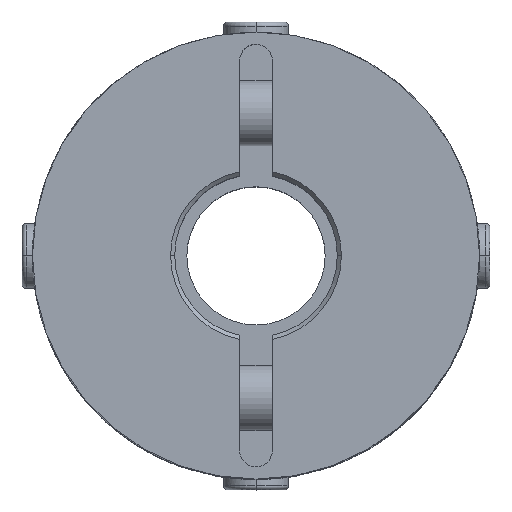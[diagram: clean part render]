
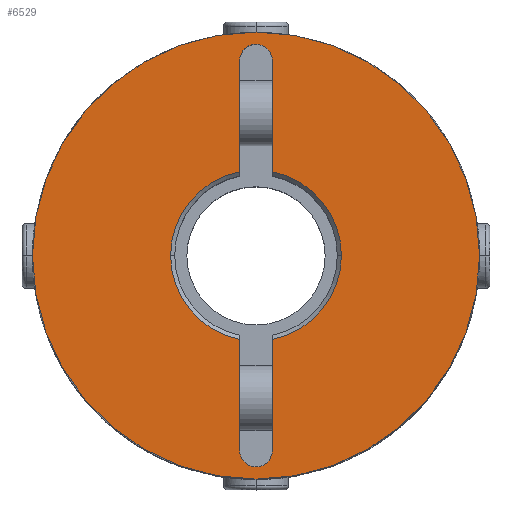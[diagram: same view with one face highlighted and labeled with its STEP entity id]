
A CAD part, top view. The second image highlights one B-rep face of the part: STEP entity #6529.
In plain terms, the highlighted planar face has unit normal (0, 0, 1).
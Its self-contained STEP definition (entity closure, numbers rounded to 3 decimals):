
#2557=CARTESIAN_POINT('',(10.5,0.,29.0));
#2558=VERTEX_POINT('',#2557);
#2574=CARTESIAN_POINT('',(2.,-10.308,29.0));
#2575=VERTEX_POINT('',#2574);
#2589=CARTESIAN_POINT('',(0.,0.0,29.0));
#2590=DIRECTION('',(0.0,0.0,1.0));
#2591=DIRECTION('',(-1.0,0.0,0.0));
#2592=AXIS2_PLACEMENT_3D('',#2589,#2590,#2591);
#2593=CIRCLE('',#2592,10.5);
#2594=EDGE_CURVE('',#2575,#2558,#2593,.T.);
#2756=CARTESIAN_POINT('',(-10.5,0.,29.0));
#2757=VERTEX_POINT('',#2756);
#2764=CARTESIAN_POINT('',(-2.,-10.308,29.0));
#2765=VERTEX_POINT('',#2764);
#2766=CARTESIAN_POINT('',(0.,0.0,29.0));
#2767=DIRECTION('',(0.0,0.0,1.0));
#2768=DIRECTION('',(-1.0,0.0,0.0));
#2769=AXIS2_PLACEMENT_3D('',#2766,#2767,#2768);
#2770=CIRCLE('',#2769,10.5);
#2771=EDGE_CURVE('',#2757,#2765,#2770,.T.);
#2797=CARTESIAN_POINT('',(-1.414,25.414,29.0));
#2798=VERTEX_POINT('',#2797);
#2814=CARTESIAN_POINT('',(2.,24.,29.0));
#2815=VERTEX_POINT('',#2814);
#2822=CARTESIAN_POINT('',(0.,24.,29.0));
#2823=DIRECTION('',(0.0,0.0,1.));
#2824=DIRECTION('',(0.707,0.707,0.0));
#2825=AXIS2_PLACEMENT_3D('',#2822,#2823,#2824);
#2826=CIRCLE('',#2825,2.);
#2827=EDGE_CURVE('',#2815,#2798,#2826,.T.);
#2839=CARTESIAN_POINT('',(1.414,-25.414,29.0));
#2840=VERTEX_POINT('',#2839);
#2856=CARTESIAN_POINT('',(-2.,-24.,29.0));
#2857=VERTEX_POINT('',#2856);
#2864=CARTESIAN_POINT('',(0.,-24.,29.0));
#2865=DIRECTION('',(0.0,0.0,1.0));
#2866=DIRECTION('',(-0.707,-0.707,0.0));
#2867=AXIS2_PLACEMENT_3D('',#2864,#2865,#2866);
#2868=CIRCLE('',#2867,2.0);
#2869=EDGE_CURVE('',#2857,#2840,#2868,.T.);
#3424=CARTESIAN_POINT('',(-27.5,0.,29.0));
#3425=VERTEX_POINT('',#3424);
#3432=CARTESIAN_POINT('',(27.5,0.0,29.0));
#3433=VERTEX_POINT('',#3432);
#3434=CARTESIAN_POINT('',(0.,0.0,29.0));
#3435=DIRECTION('',(0.0,0.0,-1.0));
#3436=DIRECTION('',(1.0,0.0,0.0));
#3437=AXIS2_PLACEMENT_3D('',#3434,#3435,#3436);
#3438=CIRCLE('',#3437,27.5);
#3439=EDGE_CURVE('',#3425,#3433,#3438,.T.);
#5730=CARTESIAN_POINT('',(0.,0.0,29.0));
#5731=DIRECTION('',(0.0,0.0,-1.0));
#5732=DIRECTION('',(1.0,0.0,0.0));
#5733=AXIS2_PLACEMENT_3D('',#5730,#5731,#5732);
#5734=CIRCLE('',#5733,27.5);
#5735=EDGE_CURVE('',#3433,#3425,#5734,.T.);
#6288=CARTESIAN_POINT('',(2.,-24.,29.0));
#6289=VERTEX_POINT('',#6288);
#6290=CARTESIAN_POINT('',(0.,-24.,29.0));
#6291=DIRECTION('',(0.0,0.0,1.0));
#6292=DIRECTION('',(-0.707,-0.707,0.0));
#6293=AXIS2_PLACEMENT_3D('',#6290,#6291,#6292);
#6294=CIRCLE('',#6293,2.0);
#6295=EDGE_CURVE('',#2840,#6289,#6294,.T.);
#6313=CARTESIAN_POINT('',(2.,-10.308,29.0));
#6314=DIRECTION('',(0.0,-1.0,0.0));
#6315=VECTOR('',#6314,13.692);
#6316=LINE('',#6313,#6315);
#6317=EDGE_CURVE('',#2575,#6289,#6316,.T.);
#6336=CARTESIAN_POINT('',(-2.,24.,29.0));
#6337=VERTEX_POINT('',#6336);
#6338=CARTESIAN_POINT('',(0.,24.,29.0));
#6339=DIRECTION('',(0.0,0.0,1.));
#6340=DIRECTION('',(0.707,0.707,0.0));
#6341=AXIS2_PLACEMENT_3D('',#6338,#6339,#6340);
#6342=CIRCLE('',#6341,2.);
#6343=EDGE_CURVE('',#2798,#6337,#6342,.T.);
#6361=CARTESIAN_POINT('',(-2.,10.308,29.0));
#6362=VERTEX_POINT('',#6361);
#6363=CARTESIAN_POINT('',(-2.,10.308,29.0));
#6364=DIRECTION('',(0.0,1.0,0.0));
#6365=VECTOR('',#6364,13.692);
#6366=LINE('',#6363,#6365);
#6367=EDGE_CURVE('',#6362,#6337,#6366,.T.);
#6443=CARTESIAN_POINT('',(2.,10.308,29.0));
#6444=VERTEX_POINT('',#6443);
#6458=CARTESIAN_POINT('',(2.,24.,29.0));
#6459=DIRECTION('',(0.0,-1.0,0.0));
#6460=VECTOR('',#6459,13.692);
#6461=LINE('',#6458,#6460);
#6462=EDGE_CURVE('',#2815,#6444,#6461,.T.);
#6481=CARTESIAN_POINT('',(-2.,-24.,29.0));
#6482=DIRECTION('',(0.0,1.0,0.0));
#6483=VECTOR('',#6482,13.692);
#6484=LINE('',#6481,#6483);
#6485=EDGE_CURVE('',#2857,#2765,#6484,.T.);
#6494=CARTESIAN_POINT('',(2.5,0.,29.0));
#6495=DIRECTION('',(0.0,0.0,1.0));
#6496=DIRECTION('',(1.0,0.0,0.0));
#6497=AXIS2_PLACEMENT_3D('',#6494,#6495,#6496);
#6498=PLANE('',#6497);
#6499=ORIENTED_EDGE('',*,*,#5735,.F.);
#6500=ORIENTED_EDGE('',*,*,#3439,.F.);
#6501=EDGE_LOOP('',(#6499,#6500));
#6502=FACE_OUTER_BOUND('',#6501,.T.);
#6503=ORIENTED_EDGE('',*,*,#6317,.T.);
#6504=ORIENTED_EDGE('',*,*,#6295,.F.);
#6505=ORIENTED_EDGE('',*,*,#2869,.F.);
#6506=ORIENTED_EDGE('',*,*,#6485,.T.);
#6507=ORIENTED_EDGE('',*,*,#2771,.F.);
#6508=CARTESIAN_POINT('',(0.,0.0,29.0));
#6509=DIRECTION('',(0.0,0.0,1.0));
#6510=DIRECTION('',(-1.0,0.0,0.0));
#6511=AXIS2_PLACEMENT_3D('',#6508,#6509,#6510);
#6512=CIRCLE('',#6511,10.5);
#6513=EDGE_CURVE('',#6362,#2757,#6512,.T.);
#6514=ORIENTED_EDGE('',*,*,#6513,.F.);
#6515=ORIENTED_EDGE('',*,*,#6367,.T.);
#6516=ORIENTED_EDGE('',*,*,#6343,.F.);
#6517=ORIENTED_EDGE('',*,*,#2827,.F.);
#6518=ORIENTED_EDGE('',*,*,#6462,.T.);
#6519=CARTESIAN_POINT('',(0.,0.0,29.0));
#6520=DIRECTION('',(0.0,0.0,1.0));
#6521=DIRECTION('',(-1.0,0.0,0.0));
#6522=AXIS2_PLACEMENT_3D('',#6519,#6520,#6521);
#6523=CIRCLE('',#6522,10.5);
#6524=EDGE_CURVE('',#2558,#6444,#6523,.T.);
#6525=ORIENTED_EDGE('',*,*,#6524,.F.);
#6526=ORIENTED_EDGE('',*,*,#2594,.F.);
#6527=EDGE_LOOP('',(#6503,#6504,#6505,#6506,#6507,#6514,#6515,#6516,#6517,#6518,#6525,#6526));
#6528=FACE_BOUND('',#6527,.T.);
#6529=ADVANCED_FACE('',(#6502,#6528),#6498,.T.);
